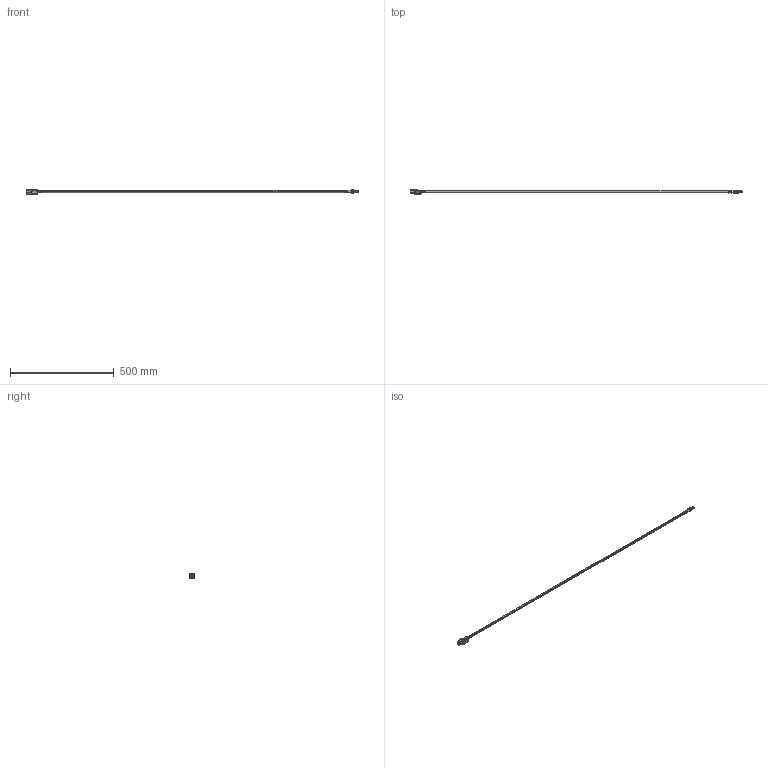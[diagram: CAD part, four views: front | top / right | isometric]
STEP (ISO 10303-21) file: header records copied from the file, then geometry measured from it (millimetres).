
FILE_DESCRIPTION(('CATIA V5 STEP Exchange'),'2;1');
FILE_NAME('\\bosch.com\dfsrb\DfsDE\DIV\BEG\MSD\Entwicklungsprojekte\Sensorik\03_Hardware\03_Sensoren\Datenbank\Lambda_Sensors\B 258 490 103-20\Mechanik\STP\B_258_490_103-20_Mini LSU 4.9_3DM.stp','2013-11-19T08:48:25+00:00',('none'),('none'),'CATIA Version 5 Release 19 SP 9 (IN-10)','CATIA V5 STEP AP214','none');
FILE_SCHEMA(('AUTOMOTIVE_DESIGN { 1 0 10303 214 1 1 1 1 }'));
Length unit declared in the file: millimetre
Products named in the file (4): B_258_490_103-20_Mini_LSU; Mini_LSU_Sensor; Connector_ 1_928_404_682; Heat Shrink
Assembly tree (3 placements, depth 2):
  B_258_490_103-20_Mini_LSU
    Mini_LSU_Sensor
    Connector_ 1_928_404_682
    Heat Shrink
Bounding box: 1601.85 x 23.76 x 27.71 mm (x, y, z)
Volume: 46495.9 mm3; surface area: 151182.5 mm2
Topology: 13 solids, 13 shells, 1860 faces, 5056 edges, 3230 vertices
Faces by surface type: cylinder 638, plane 497, torus 302, bspline 284, cone 120, sphere 14, extrusion 5
Entity records: 86226 total; most frequent: CARTESIAN_POINT 31508, ORIENTED_EDGE 10088, DIRECTION 6378, EDGE_CURVE 5044, VERTEX_POINT 3230, AXIS2_PLACEMENT_3D 2978, EDGE_LOOP 1914, PRESENTATION_STYLE_ASSIGNMENT 1873
